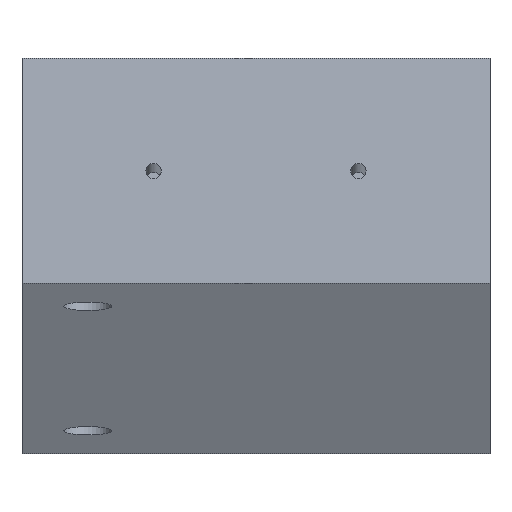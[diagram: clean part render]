
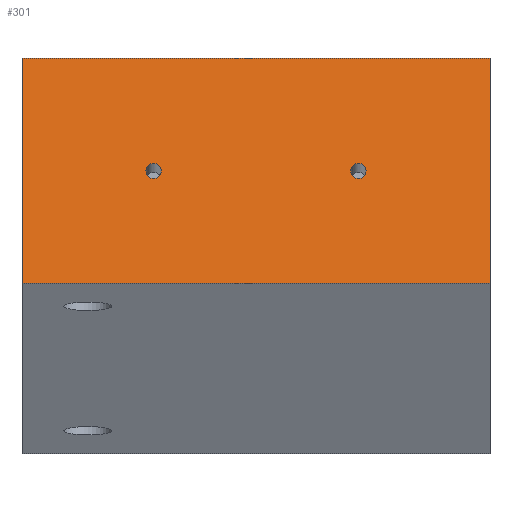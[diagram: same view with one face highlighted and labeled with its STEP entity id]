
A CAD part, front view. The second image highlights one B-rep face of the part: STEP entity #301.
In plain terms, the highlighted planar face has unit normal (0, -0.985, 0.174).
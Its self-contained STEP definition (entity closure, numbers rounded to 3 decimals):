
#37=CARTESIAN_POINT('',(-294.5,-204.258,1379.215));
#38=VERTEX_POINT('',#37);
#45=CARTESIAN_POINT('',(-422.5,-204.258,1379.215));
#46=VERTEX_POINT('',#45);
#47=CARTESIAN_POINT('',(-422.5,-204.258,1379.215));
#48=DIRECTION('',(1.0,0.0,0.0));
#49=VECTOR('',#48,1.);
#50=LINE('',#47,#49);
#51=EDGE_CURVE('',#46,#38,#50,.T.);
#97=CARTESIAN_POINT('',(-294.5,-193.405,1440.766));
#98=VERTEX_POINT('',#97);
#105=CARTESIAN_POINT('',(-294.5,-204.258,1379.215));
#106=DIRECTION('',(0.,0.174,0.985));
#107=VECTOR('',#106,1.);
#108=LINE('',#105,#107);
#109=EDGE_CURVE('',#38,#98,#108,.T.);
#150=CARTESIAN_POINT('',(-422.5,-193.405,1440.766));
#151=VERTEX_POINT('',#150);
#158=CARTESIAN_POINT('',(-294.5,-193.405,1440.766));
#159=DIRECTION('',(-1.0,0.,0.));
#160=VECTOR('',#159,1.);
#161=LINE('',#158,#160);
#162=EDGE_CURVE('',#98,#151,#161,.T.);
#202=CARTESIAN_POINT('',(-422.5,-193.405,1440.766));
#203=DIRECTION('',(0.,-0.174,-0.985));
#204=VECTOR('',#203,1.);
#205=LINE('',#202,#204);
#206=EDGE_CURVE('',#151,#46,#205,.T.);
#268=CARTESIAN_POINT('',(-422.5,-204.258,1379.215));
#269=DIRECTION('',(0.0,-0.985,0.174));
#270=DIRECTION('',(1.0,0.0,0.0));
#271=AXIS2_PLACEMENT_3D('',#268,#269,#270);
#272=PLANE('',#271);
#273=ORIENTED_EDGE('',*,*,#51,.T.);
#274=ORIENTED_EDGE('',*,*,#109,.T.);
#275=ORIENTED_EDGE('',*,*,#162,.T.);
#276=ORIENTED_EDGE('',*,*,#206,.T.);
#277=EDGE_LOOP('',(#273,#274,#275,#276));
#278=FACE_OUTER_BOUND('',#277,.T.);
#279=CARTESIAN_POINT('',(-384.4,-198.831,1409.991));
#280=VERTEX_POINT('',#279);
#281=CARTESIAN_POINT('',(-386.5,-198.831,1409.991));
#282=DIRECTION('',(0.0,-0.985,0.174));
#283=DIRECTION('',(1.0,0.0,0.0));
#284=AXIS2_PLACEMENT_3D('',#281,#282,#283);
#285=CIRCLE('',#284,2.1);
#286=EDGE_CURVE('',#280,#280,#285,.T.);
#287=ORIENTED_EDGE('',*,*,#286,.F.);
#288=EDGE_LOOP('',(#287));
#289=FACE_BOUND('',#288,.T.);
#290=CARTESIAN_POINT('',(-328.4,-198.831,1409.991));
#291=VERTEX_POINT('',#290);
#292=CARTESIAN_POINT('',(-330.5,-198.831,1409.991));
#293=DIRECTION('',(0.0,-0.985,0.174));
#294=DIRECTION('',(1.0,0.0,0.0));
#295=AXIS2_PLACEMENT_3D('',#292,#293,#294);
#296=CIRCLE('',#295,2.1);
#297=EDGE_CURVE('',#291,#291,#296,.T.);
#298=ORIENTED_EDGE('',*,*,#297,.F.);
#299=EDGE_LOOP('',(#298));
#300=FACE_BOUND('',#299,.T.);
#301=ADVANCED_FACE('',(#278,#289,#300),#272,.T.);
